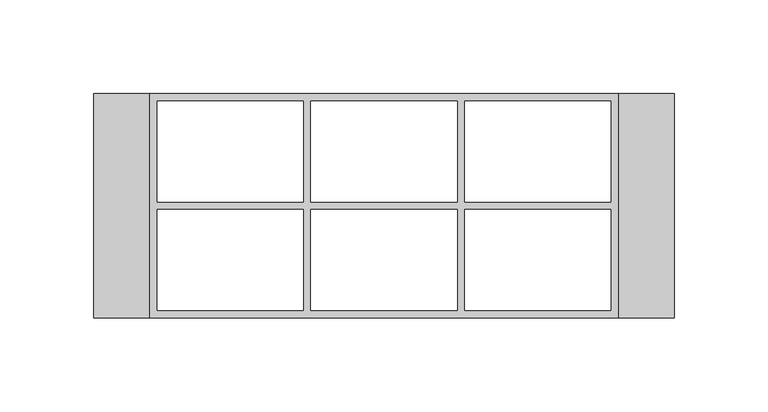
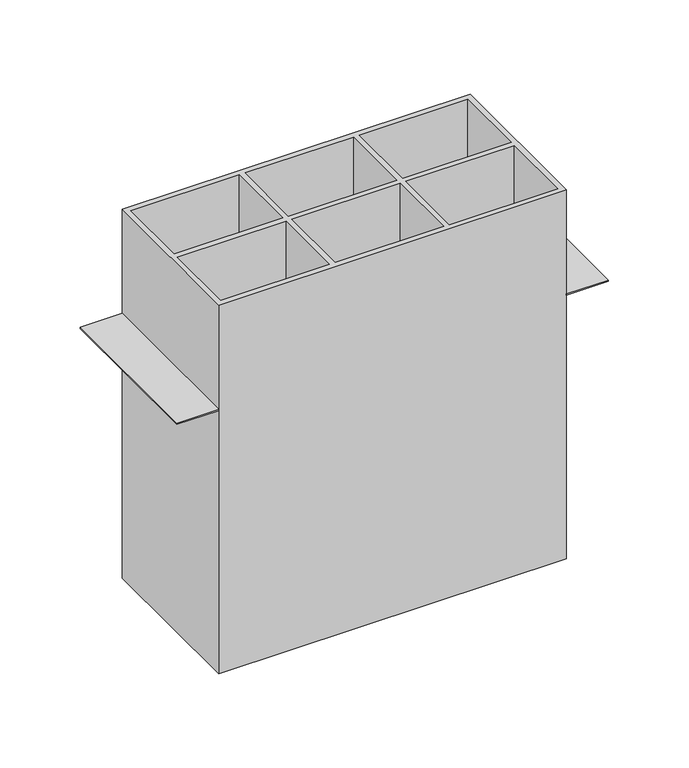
"""IFC4 building model written with IfcOpenShell, lengths in millimetres: proxy geometry, ▲EE_УЭР_гильза : 250_мм."""

from ifc_helpers import new_model, si_unit, frame, origin, origin_with_axes, place, context, project, spatial, polyline, outline, extrude, source, transform, mapped, element, save


def electrical_equipment_611ffe71(model_context):
    return source(origin(), model_context, "Body", "SweptSolid", [
        extrude(outline(polyline([(-5.0, -15.0), (25.0, -15.0), (25.0, -135.0), (-5.0, -135.0), (-5.0, -15.0)])), origin_with_axes(), (0.0, 0.0, 1.0), 1.0),
        extrude(outline(polyline([(275.0, -15.0), (305.0, -15.0), (305.0, -135.0), (275.0, -135.0), (275.0, -15.0)])), origin_with_axes(), (0.0, 0.0, 1.0), 1.0),
        extrude(outline(polyline([(275.0, -135.0), (25.0, -135.0), (25.0, -15.0), (275.0, -15.0), (275.0, -135.0)]), holes=[polyline([(107.0, -19.0), (29.0, -19.0), (29.0, -73.0), (107.0, -73.0), (107.0, -19.0)]), polyline([(107.0, -77.0), (29.0, -77.0), (29.0, -131.0), (107.0, -131.0), (107.0, -77.0)]), polyline([(189.0, -19.0), (111.0, -19.0), (111.0, -73.0), (189.0, -73.0), (189.0, -19.0)]), polyline([(189.0, -77.0), (111.0, -77.0), (111.0, -131.0), (189.0, -131.0), (189.0, -77.0)]), polyline([(271.0, -19.0), (193.0, -19.0), (193.0, -73.0), (271.0, -73.0), (271.0, -19.0)]), polyline([(271.0, -77.0), (193.0, -77.0), (193.0, -131.0), (271.0, -131.0), (271.0, -77.0)])]), frame((0.0, 0.0, -200.0), z_axis=(0.0, 0.0, 1.0), x_axis=(1.0, 0.0, 0.0)), (0.0, 0.0, 1.0), 280.0),
    ])


if __name__ == "__main__":
    model = new_model("IFC4")
    model_context = context("Model", 3, world=origin())
    ifc_project = project(units=[si_unit("LENGTHUNIT", "METRE", prefix="MILLI")], contexts=[model_context])
    site = spatial("IfcSite", under=ifc_project)
    building = spatial("IfcBuilding", under=site)
    placement = place(None, origin())
    electrical_equipment_shape = electrical_equipment_611ffe71(model_context)
    element("IfcBuildingElementProxy", 1, Name="▲EE_УЭР_гильза : 250_мм", ObjectType="▲EE_УЭР_гильза : 250_мм", at=placement, inside=building, context=model_context, shape_type="MappedRepresentation", body=[
        mapped(electrical_equipment_shape, transform((0.0, 0.0, 0.0), x_axis=(1.0, 0.0, 0.0), y_axis=(0.0, 1.0, 0.0), z_axis=(0.0, 0.0, 1.0))),
    ])
    save(model, "model.ifc")
